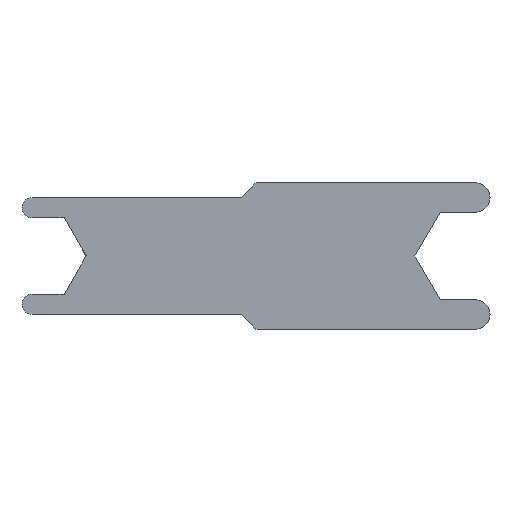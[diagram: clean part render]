
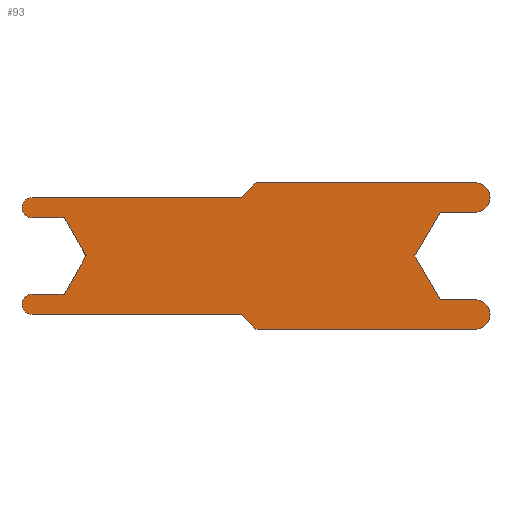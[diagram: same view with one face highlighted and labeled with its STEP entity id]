
A CAD part, top view. The second image highlights one B-rep face of the part: STEP entity #93.
In plain terms, the highlighted planar face has unit normal (0, 0, 1).
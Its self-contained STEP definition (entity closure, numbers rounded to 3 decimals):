
#93 = ADVANCED_FACE( '', ( #132 ), #133, .T. );
#132 = FACE_OUTER_BOUND( '', #172, .T. );
#133 = PLANE( '', #173 );
#172 = EDGE_LOOP( '', ( #302, #303, #304, #305, #306, #307, #308, #309, #310, #311, #312, #313, #314, #315, #316, #317, #318, #319 ) );
#173 = AXIS2_PLACEMENT_3D( '', #320, #321, #322 );
#302 = ORIENTED_EDGE( '', *, *, #354, .T. );
#303 = ORIENTED_EDGE( '', *, *, #358, .T. );
#304 = ORIENTED_EDGE( '', *, *, #351, .T. );
#305 = ORIENTED_EDGE( '', *, *, #344, .T. );
#306 = ORIENTED_EDGE( '', *, *, #348, .T. );
#307 = ORIENTED_EDGE( '', *, *, #360, .T. );
#308 = ORIENTED_EDGE( '', *, *, #363, .T. );
#309 = ORIENTED_EDGE( '', *, *, #366, .T. );
#310 = ORIENTED_EDGE( '', *, *, #369, .T. );
#311 = ORIENTED_EDGE( '', *, *, #372, .T. );
#312 = ORIENTED_EDGE( '', *, *, #375, .T. );
#313 = ORIENTED_EDGE( '', *, *, #378, .T. );
#314 = ORIENTED_EDGE( '', *, *, #381, .T. );
#315 = ORIENTED_EDGE( '', *, *, #384, .T. );
#316 = ORIENTED_EDGE( '', *, *, #387, .T. );
#317 = ORIENTED_EDGE( '', *, *, #390, .T. );
#318 = ORIENTED_EDGE( '', *, *, #393, .T. );
#319 = ORIENTED_EDGE( '', *, *, #396, .T. );
#320 = CARTESIAN_POINT( '', ( -38.25, -8.25, 0. ) );
#321 = DIRECTION( '', ( 0., 0., 1. ) );
#322 = DIRECTION( '', ( 1., 0., 0. ) );
#344 = EDGE_CURVE( '', #398, #399, #400, .T. );
#348 = EDGE_CURVE( '', #399, #406, #407, .T. );
#351 = EDGE_CURVE( '', #411, #398, #412, .T. );
#354 = EDGE_CURVE( '', #416, #417, #418, .T. );
#358 = EDGE_CURVE( '', #417, #411, #424, .T. );
#360 = EDGE_CURVE( '', #406, #426, #427, .T. );
#363 = EDGE_CURVE( '', #426, #431, #432, .T. );
#366 = EDGE_CURVE( '', #431, #436, #437, .T. );
#369 = EDGE_CURVE( '', #436, #441, #442, .T. );
#372 = EDGE_CURVE( '', #441, #446, #447, .T. );
#375 = EDGE_CURVE( '', #446, #451, #452, .T. );
#378 = EDGE_CURVE( '', #451, #456, #457, .T. );
#381 = EDGE_CURVE( '', #456, #461, #462, .T. );
#384 = EDGE_CURVE( '', #461, #466, #467, .T. );
#387 = EDGE_CURVE( '', #466, #471, #472, .T. );
#390 = EDGE_CURVE( '', #471, #476, #477, .T. );
#393 = EDGE_CURVE( '', #476, #481, #482, .T. );
#396 = EDGE_CURVE( '', #481, #416, #486, .T. );
#398 = VERTEX_POINT( '', #488 );
#399 = VERTEX_POINT( '', #489 );
#400 = LINE( '', #490, #491 );
#406 = VERTEX_POINT( '', #500 );
#407 = LINE( '', #501, #502 );
#411 = VERTEX_POINT( '', #508 );
#412 = LINE( '', #509, #510 );
#416 = VERTEX_POINT( '', #516 );
#417 = VERTEX_POINT( '', #517 );
#418 = LINE( '', #518, #519 );
#424 = CIRCLE( '', #528, 1.75 );
#426 = VERTEX_POINT( '', #530 );
#427 = CIRCLE( '', #531, 2.5 );
#431 = VERTEX_POINT( '', #536 );
#432 = LINE( '', #537, #538 );
#436 = VERTEX_POINT( '', #544 );
#437 = LINE( '', #545, #546 );
#441 = VERTEX_POINT( '', #552 );
#442 = LINE( '', #553, #554 );
#446 = VERTEX_POINT( '', #560 );
#447 = LINE( '', #561, #562 );
#451 = VERTEX_POINT( '', #568 );
#452 = CIRCLE( '', #569, 2.5 );
#456 = VERTEX_POINT( '', #574 );
#457 = LINE( '', #575, #576 );
#461 = VERTEX_POINT( '', #582 );
#462 = LINE( '', #583, #584 );
#466 = VERTEX_POINT( '', #590 );
#467 = LINE( '', #591, #592 );
#471 = VERTEX_POINT( '', #598 );
#472 = CIRCLE( '', #599, 1.75 );
#476 = VERTEX_POINT( '', #604 );
#477 = LINE( '', #605, #606 );
#481 = VERTEX_POINT( '', #612 );
#482 = LINE( '', #613, #614 );
#486 = LINE( '', #620, #621 );
#488 = CARTESIAN_POINT( '', ( -2.5, -10., 0. ) );
#489 = CARTESIAN_POINT( '', ( 0., -12.5, 0. ) );
#490 = CARTESIAN_POINT( '', ( -2.5, -10., 0. ) );
#491 = VECTOR( '', #624, 1000. );
#500 = CARTESIAN_POINT( '', ( 37.5, -12.5, 0. ) );
#501 = CARTESIAN_POINT( '', ( 0., -12.5, 0. ) );
#502 = VECTOR( '', #628, 1000. );
#508 = CARTESIAN_POINT( '', ( -38.25, -10., 0. ) );
#509 = CARTESIAN_POINT( '', ( -38.25, -10., 0. ) );
#510 = VECTOR( '', #631, 1000. );
#516 = CARTESIAN_POINT( '', ( -32.8, -6.5, 0. ) );
#517 = CARTESIAN_POINT( '', ( -38.25, -6.5, 0. ) );
#518 = CARTESIAN_POINT( '', ( -32.8, -6.5, 0. ) );
#519 = VECTOR( '', #634, 1000. );
#528 = AXIS2_PLACEMENT_3D( '', #638, #639, #640 );
#530 = CARTESIAN_POINT( '', ( 37.5, -7.5, 0. ) );
#531 = AXIS2_PLACEMENT_3D( '', #644, #645, #646 );
#536 = CARTESIAN_POINT( '', ( 31.5, -7.5, 0. ) );
#537 = CARTESIAN_POINT( '', ( 37.5, -7.5, 0. ) );
#538 = VECTOR( '', #651, 1000. );
#544 = CARTESIAN_POINT( '', ( 27.17, 0., 0. ) );
#545 = CARTESIAN_POINT( '', ( 31.5, -7.5, 0. ) );
#546 = VECTOR( '', #654, 1000. );
#552 = CARTESIAN_POINT( '', ( 31.5, 7.5, 0. ) );
#553 = CARTESIAN_POINT( '', ( 27.17, 0., 0. ) );
#554 = VECTOR( '', #657, 1000. );
#560 = CARTESIAN_POINT( '', ( 37.5, 7.5, 0. ) );
#561 = CARTESIAN_POINT( '', ( 31.5, 7.5, 0. ) );
#562 = VECTOR( '', #660, 1000. );
#568 = CARTESIAN_POINT( '', ( 37.5, 12.5, 0. ) );
#569 = AXIS2_PLACEMENT_3D( '', #663, #664, #665 );
#574 = CARTESIAN_POINT( '', ( 0., 12.5, 0. ) );
#575 = CARTESIAN_POINT( '', ( 37.5, 12.5, 0. ) );
#576 = VECTOR( '', #670, 1000. );
#582 = CARTESIAN_POINT( '', ( -2.5, 10., 0. ) );
#583 = CARTESIAN_POINT( '', ( 0., 12.5, 0. ) );
#584 = VECTOR( '', #673, 1000. );
#590 = CARTESIAN_POINT( '', ( -38.25, 10., 0. ) );
#591 = CARTESIAN_POINT( '', ( -2.5, 10., 0. ) );
#592 = VECTOR( '', #676, 1000. );
#598 = CARTESIAN_POINT( '', ( -38.25, 6.5, 0. ) );
#599 = AXIS2_PLACEMENT_3D( '', #679, #680, #681 );
#604 = CARTESIAN_POINT( '', ( -32.8, 6.5, 0. ) );
#605 = CARTESIAN_POINT( '', ( -38.25, 6.5, 0. ) );
#606 = VECTOR( '', #686, 1000. );
#612 = CARTESIAN_POINT( '', ( -29.047, 0., 0. ) );
#613 = CARTESIAN_POINT( '', ( -32.8, 6.5, 0. ) );
#614 = VECTOR( '', #689, 1000. );
#620 = CARTESIAN_POINT( '', ( -29.047, 0., 0. ) );
#621 = VECTOR( '', #692, 1000. );
#624 = DIRECTION( '', ( 0.707, -0.707, 0. ) );
#628 = DIRECTION( '', ( 1., 0., 0. ) );
#631 = DIRECTION( '', ( 1., 0., 0. ) );
#634 = DIRECTION( '', ( -1., 0., 0. ) );
#638 = CARTESIAN_POINT( '', ( -38.25, -8.25, 0. ) );
#639 = DIRECTION( '', ( 0., 0., 1. ) );
#640 = DIRECTION( '', ( 1., 0., 0. ) );
#644 = CARTESIAN_POINT( '', ( 37.5, -10., 0. ) );
#645 = DIRECTION( '', ( 0., 0., 1. ) );
#646 = DIRECTION( '', ( 1., 0., 0. ) );
#651 = DIRECTION( '', ( -1., 0., 0. ) );
#654 = DIRECTION( '', ( -0.5, 0.866, 0. ) );
#657 = DIRECTION( '', ( 0.5, 0.866, 0. ) );
#660 = DIRECTION( '', ( 1., 0., 0. ) );
#663 = CARTESIAN_POINT( '', ( 37.5, 10., 0. ) );
#664 = DIRECTION( '', ( 0., 0., 1. ) );
#665 = DIRECTION( '', ( 1., 0., 0. ) );
#670 = DIRECTION( '', ( -1., 0., 0. ) );
#673 = DIRECTION( '', ( -0.707, -0.707, 0. ) );
#676 = DIRECTION( '', ( -1., 0., 0. ) );
#679 = CARTESIAN_POINT( '', ( -38.25, 8.25, 0. ) );
#680 = DIRECTION( '', ( 0., 0., 1. ) );
#681 = DIRECTION( '', ( 1., 0., 0. ) );
#686 = DIRECTION( '', ( 1., 0., 0. ) );
#689 = DIRECTION( '', ( 0.5, -0.866, 0. ) );
#692 = DIRECTION( '', ( -0.5, -0.866, 0. ) );
